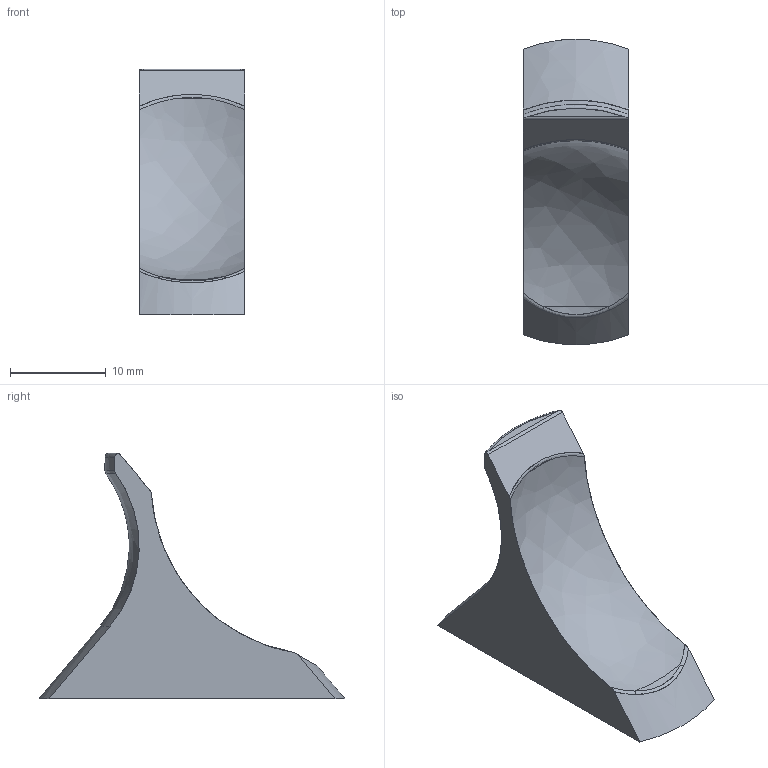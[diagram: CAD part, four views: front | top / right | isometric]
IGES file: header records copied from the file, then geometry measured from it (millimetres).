
Start section: C
Global section: file name: 8067.igs; native system: By Siemens PLM Incorporated; preprocessor: XPlus GENERIC/IGES 16.0.42; author: Author; organization: Title; date: 20190519.071140; units: millimetre
Bounding box: 11 x 32 x 25.7 mm (x, y, z)
Surface area: 1860.6 mm2 (no closed solid volume)
Topology: 0 solids, 0 shells, 26 faces, 134 edges, 134 vertices
Faces by surface type: bspline 26
